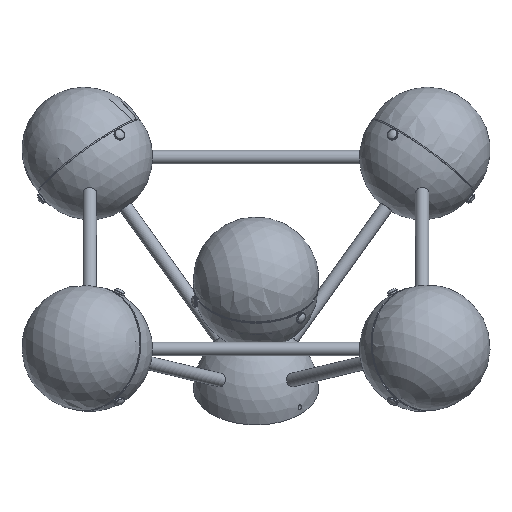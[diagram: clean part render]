
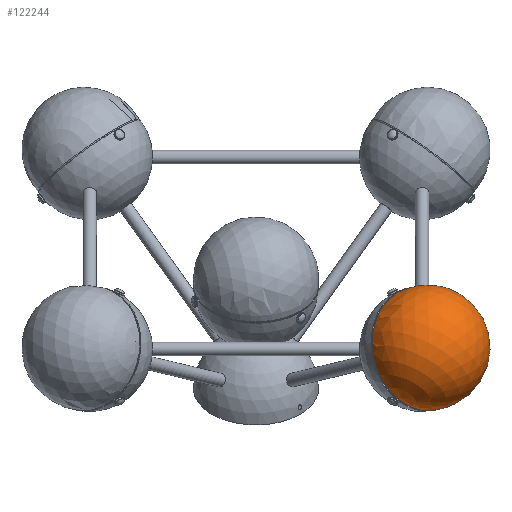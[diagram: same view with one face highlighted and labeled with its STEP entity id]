
A CAD part, isometric view. The second image highlights one B-rep face of the part: STEP entity #122244.
In plain terms, the highlighted spherical face has radius 60 mm.
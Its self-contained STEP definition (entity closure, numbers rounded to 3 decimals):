
#8180=FACE_BOUND('',#23350,.T.);
#8240=SPHERICAL_SURFACE('',#131315,60.);
#15975=FACE_OUTER_BOUND('',#23349,.T.);
#23349=EDGE_LOOP('',(#112019,#112020));
#23350=EDGE_LOOP('',(#112021));
#53713=CIRCLE('',#131314,59.537);
#53714=CIRCLE('',#131316,60.);
#64806=VERTEX_POINT('',#198805);
#64807=VERTEX_POINT('',#198809);
#64808=VERTEX_POINT('',#198810);
#80744=EDGE_CURVE('',#64806,#64806,#53713,.T.);
#80745=EDGE_CURVE('',#64807,#64808,#53714,.T.);
#112019=ORIENTED_EDGE('',*,*,#80745,.T.);
#112020=ORIENTED_EDGE('',*,*,#80745,.F.);
#112021=ORIENTED_EDGE('',*,*,#80744,.F.);
#122244=ADVANCED_FACE('',(#15975,#8180),#8240,.T.);
#131314=AXIS2_PLACEMENT_3D('',#198807,#162031,#162032);
#131315=AXIS2_PLACEMENT_3D('',#198808,#162033,#162034);
#131316=AXIS2_PLACEMENT_3D('',#198811,#162035,#162036);
#162031=DIRECTION('center_axis',(0.,0.816,
-0.577));
#162032=DIRECTION('ref_axis',(0.5,-0.5,-0.707));
#162033=DIRECTION('center_axis',(0.866,0.289,0.408));
#162034=DIRECTION('ref_axis',(-0.5,0.5,0.707));
#162035=DIRECTION('center_axis',(0.,0.816,
-0.577));
#162036=DIRECTION('ref_axis',(0.5,-0.5,-0.707));
#198805=CARTESIAN_POINT('',(51.56,-208.894,184.169));
#198807=CARTESIAN_POINT('Origin',(0.,-226.081,
159.863));
#198808=CARTESIAN_POINT('Origin',(0.,-232.157,
164.16));
#198809=CARTESIAN_POINT('',(51.962,-214.836,188.654));
#198810=CARTESIAN_POINT('',(-51.962,-249.477,139.665));
#198811=CARTESIAN_POINT('Origin',(0.,-232.157,
164.16));
